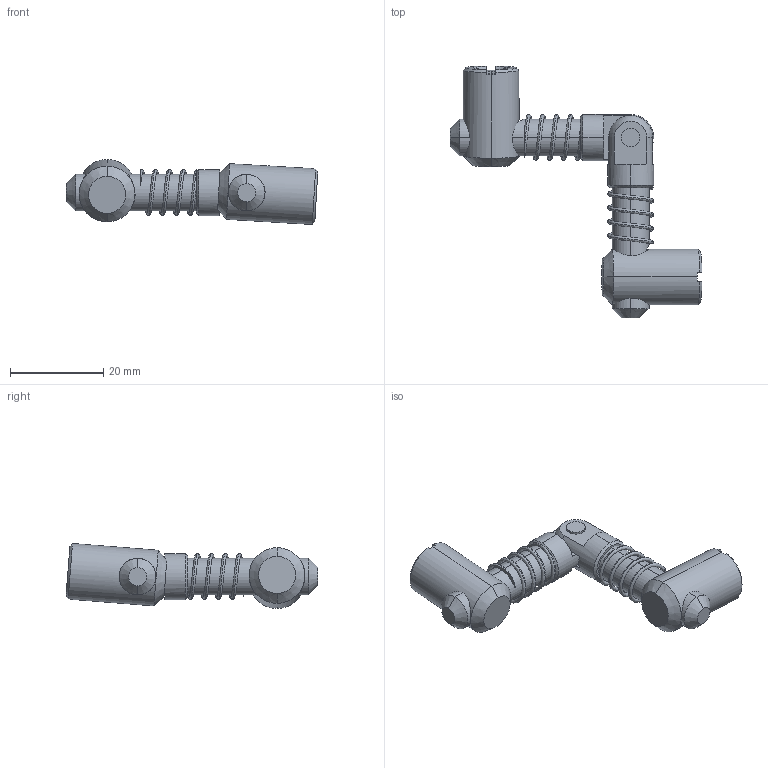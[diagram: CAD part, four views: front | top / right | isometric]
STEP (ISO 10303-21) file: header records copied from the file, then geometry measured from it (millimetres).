
FILE_DESCRIPTION (( 'STEP AP214' ), '1' );
FILE_NAME ('2.03.spmc.STEP', '2015-05-30T09:14:36', ( '' ), ( '' ), 'SwSTEP 2.0', 'SolidWorks 2015', '' );
FILE_SCHEMA (( 'AUTOMOTIVE_DESIGN' ));
Length unit declared in the file: millimetre
Products named in the file (1): 2.03.spmc
Bounding box: 54.09 x 54.18 x 13.9 mm (x, y, z)
Surface area: 5759.8 mm2 (no closed solid volume)
Topology: 0 solids, 9 shells, 116 faces, 302 edges, 198 vertices
Faces by surface type: plane 65, cone 24, cylinder 20, bspline 4, sphere 3
Entity records: 6294 total; most frequent: CARTESIAN_POINT 3446, DIRECTION 577, ORIENTED_EDGE 556, EDGE_CURVE 295, AXIS2_PLACEMENT_3D 215, VERTEX_POINT 196, LINE 147, VECTOR 147
